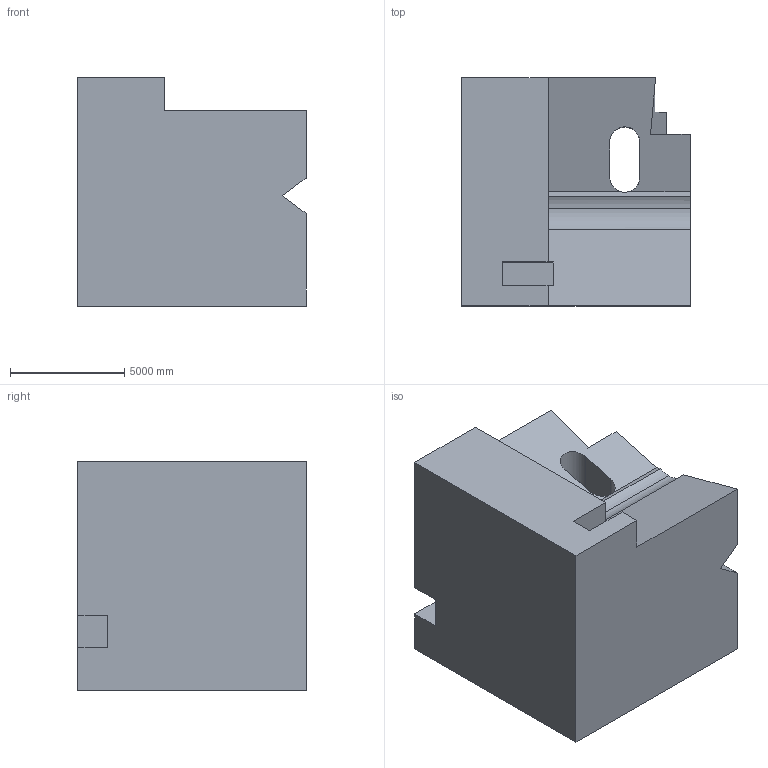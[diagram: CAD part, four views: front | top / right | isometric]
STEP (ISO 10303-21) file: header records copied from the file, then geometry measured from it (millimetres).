
FILE_DESCRIPTION (( 'STEP AP203' ), '1' );
FILE_NAME ('391.STEP', '2022-09-07T13:29:24', ( 'user' ), ( '' ), 'SwSTEP 2.0', 'SolidWorks 2021', '' );
FILE_SCHEMA (( 'CONFIG_CONTROL_DESIGN' ));
Length unit declared in the file: centimetre
Products named in the file (1): 391
Bounding box: 10000 x 10000 x 10000 mm (x, y, z)
Volume: 757383547453.8 mm3; surface area: 723000096.9 mm2
Topology: 1 solids, 1 shells, 48 faces, 138 edges, 92 vertices
Faces by surface type: plane 40, cylinder 8
Entity records: 1643 total; most frequent: CARTESIAN_POINT 297, ORIENTED_EDGE 276, DIRECTION 246, EDGE_CURVE 138, VECTOR 116, LINE 116, VERTEX_POINT 92, AXIS2_PLACEMENT_3D 65
